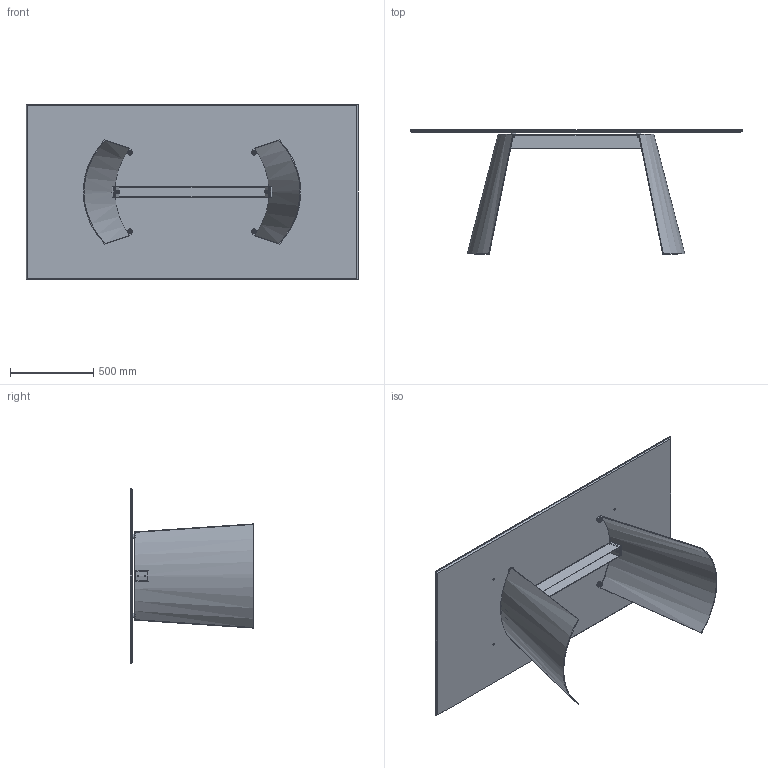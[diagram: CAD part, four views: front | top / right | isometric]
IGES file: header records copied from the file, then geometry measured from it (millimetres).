
Start section: SolidWorks IGES file using analytic representation for surfaces
Global section: file name: Y:\eforma\TECNICO\SOLIDWORKS\E-FORMA\1-TAVOLI\DORIAN\02 parts-rev 01\DN21C.IGS; native system: SolidWorks 2022; preprocessor: SolidWorks 2022; author: eforma.tech; date: 240807.165550; units: millimetre
Bounding box: 2000 x 746 x 1060 mm (x, y, z)
Volume: 39244596.1 mm3; surface area: 10945610.1 mm2
Topology: 45 solids, 45 shells, 560 faces, 1282 edges, 812 vertices
Faces by surface type: revolution 308, plane 234, bspline 18
